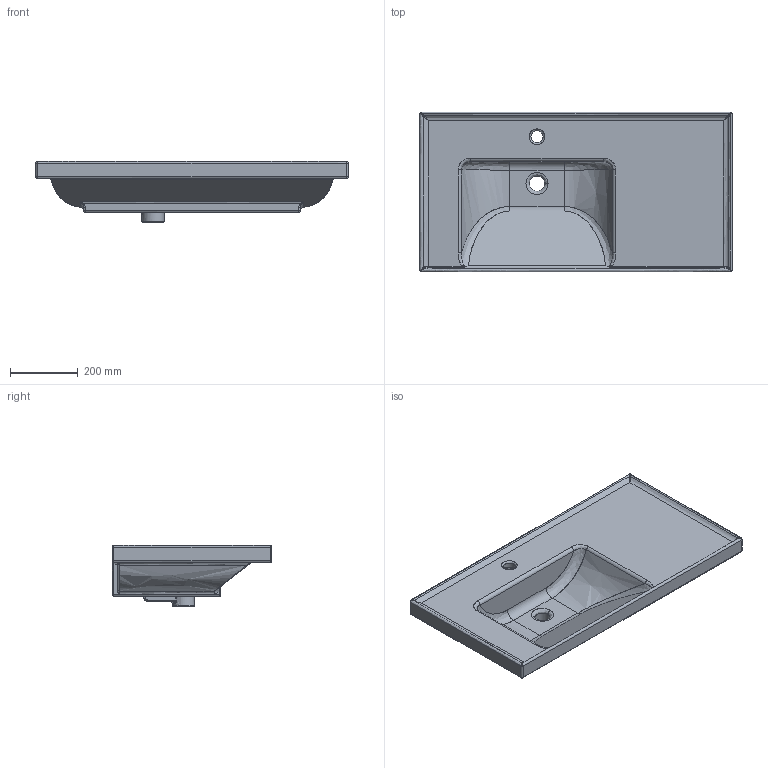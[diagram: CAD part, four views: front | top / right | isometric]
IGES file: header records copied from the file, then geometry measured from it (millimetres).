
Start section: C
Global section: file name: ML 90x47 Con Mensola DX.igs; native system:  By UGS Corp.; preprocessor: XPlus GENERIC/IGES 3.0; author: Author; organization: Title; date: 20120604.155210; units: millimetre
Bounding box: 920 x 470 x 180 mm (x, y, z)
Surface area: 1400076.6 mm2 (no closed solid volume)
Topology: 0 solids, 0 shells, 243 faces, 1150 edges, 1116 vertices
Faces by surface type: bspline 243
